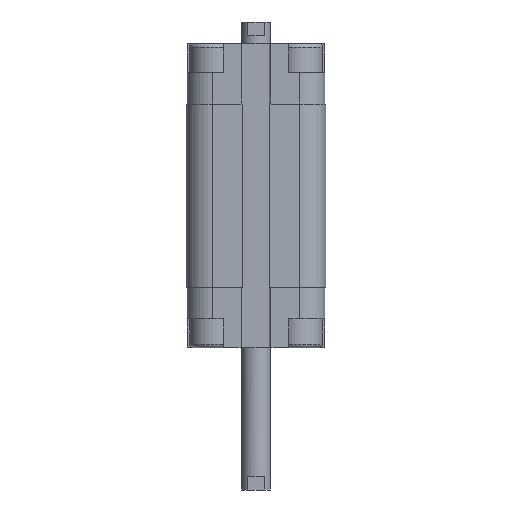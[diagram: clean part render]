
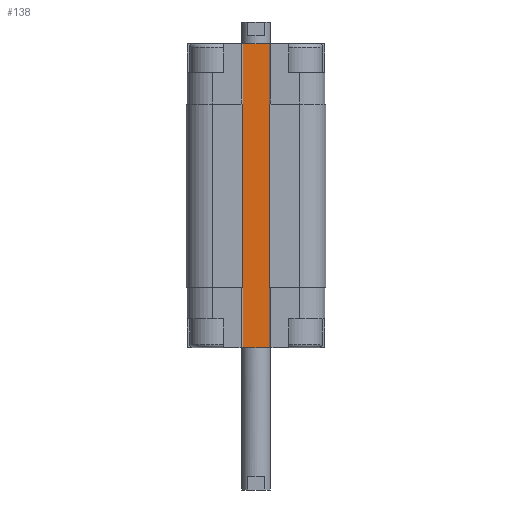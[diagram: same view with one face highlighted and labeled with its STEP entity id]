
A CAD part, front view. The second image highlights one B-rep face of the part: STEP entity #138.
In plain terms, the highlighted planar face has unit normal (0, -1, 0).
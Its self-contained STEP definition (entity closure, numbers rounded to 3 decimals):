
#115 = LINE ( 'NONE', #5690, #4270 ) ;
#138 = ADVANCED_FACE ( 'NONE', ( #8324 ), #13968, .T. ) ;
#186 = DIRECTION ( 'NONE',  ( 0., 0., 1. ) ) ;
#196 = CARTESIAN_POINT ( 'NONE',  ( -3.2, -9.5, -50.5 ) ) ;
#245 = CARTESIAN_POINT ( 'NONE',  ( -3., -9.5, -50.5 ) ) ;
#257 = VECTOR ( 'NONE', #3092, 1000. ) ;
#588 = VECTOR ( 'NONE', #1070, 1000. ) ;
#705 = VERTEX_POINT ( 'NONE', #3250 ) ;
#727 = DIRECTION ( 'NONE',  ( 0., 0., 1. ) ) ;
#982 = DIRECTION ( 'NONE',  ( 1., 0., 0. ) ) ;
#1070 = DIRECTION ( 'NONE',  ( 0., 0., 1. ) ) ;
#1153 = VECTOR ( 'NONE', #186, 1000. ) ;
#1288 = DIRECTION ( 'NONE',  ( 0., 0., 1. ) ) ;
#1387 = CARTESIAN_POINT ( 'NONE',  ( -3.2, -9.5, -12.5 ) ) ;
#1629 = ORIENTED_EDGE ( 'NONE', *, *, #16730, .F. ) ;
#1764 = LINE ( 'NONE', #13106, #17741 ) ;
#1833 = CARTESIAN_POINT ( 'NONE',  ( -3.2, -9.5, -50.5 ) ) ;
#2159 = CARTESIAN_POINT ( 'NONE',  ( -3.2, -9.5, -50.5 ) ) ;
#2169 = EDGE_CURVE ( 'NONE', #11245, #8164, #14922, .T. ) ;
#2183 = LINE ( 'NONE', #4979, #15086 ) ;
#2783 = CARTESIAN_POINT ( 'NONE',  ( 9., -9.5, -12.5 ) ) ;
#2799 = DIRECTION ( 'NONE',  ( 1., 0., 0. ) ) ;
#3049 = VECTOR ( 'NONE', #982, 1000. ) ;
#3092 = DIRECTION ( 'NONE',  ( 1., 0., 0. ) ) ;
#3185 = ORIENTED_EDGE ( 'NONE', *, *, #5976, .T. ) ;
#3247 = CARTESIAN_POINT ( 'NONE',  ( -3., -9.5, -63. ) ) ;
#3250 = CARTESIAN_POINT ( 'NONE',  ( 3., -9.5, 0. ) ) ;
#3767 = CARTESIAN_POINT ( 'NONE',  ( 3., -9.5, -12.5 ) ) ;
#3772 = CARTESIAN_POINT ( 'NONE',  ( -3., -9.5, 0. ) ) ;
#3825 = LINE ( 'NONE', #9318, #13184 ) ;
#3887 = VERTEX_POINT ( 'NONE', #17398 ) ;
#4168 = CARTESIAN_POINT ( 'NONE',  ( -3., -9.5, -12.5 ) ) ;
#4270 = VECTOR ( 'NONE', #1288, 1000. ) ;
#4363 = LINE ( 'NONE', #1833, #257 ) ;
#4979 = CARTESIAN_POINT ( 'NONE',  ( 3., -9.5, -12.5 ) ) ;
#5239 = EDGE_CURVE ( 'NONE', #12124, #17753, #1764, .T. ) ;
#5434 = EDGE_CURVE ( 'NONE', #7351, #3887, #3825, .T. ) ;
#5690 = CARTESIAN_POINT ( 'NONE',  ( 3., -9.5, -63. ) ) ;
#5976 = EDGE_CURVE ( 'NONE', #3887, #12943, #115, .T. ) ;
#5995 = AXIS2_PLACEMENT_3D ( 'NONE', #4168, #13620, #9667 ) ;
#6027 = LINE ( 'NONE', #16978, #1153 ) ;
#6084 = DIRECTION ( 'NONE',  ( 1., 0., 0. ) ) ;
#6270 = VERTEX_POINT ( 'NONE', #2159 ) ;
#7351 = VERTEX_POINT ( 'NONE', #15470 ) ;
#7674 = EDGE_LOOP ( 'NONE', ( #12659, #10987, #15206, #1629, #10939, #14387, #12295, #3185, #15860, #14602, #15537, #9703 ) ) ;
#7907 = LINE ( 'NONE', #13046, #588 ) ;
#8164 = VERTEX_POINT ( 'NONE', #16574 ) ;
#8173 = EDGE_CURVE ( 'NONE', #11245, #705, #2183, .T. ) ;
#8324 = FACE_OUTER_BOUND ( 'NONE', #7674, .T. ) ;
#8466 = LINE ( 'NONE', #196, #8498 ) ;
#8498 = VECTOR ( 'NONE', #2799, 1000. ) ;
#8553 = LINE ( 'NONE', #3247, #16050 ) ;
#8919 = VERTEX_POINT ( 'NONE', #245 ) ;
#9081 = LINE ( 'NONE', #3772, #3049 ) ;
#9318 = CARTESIAN_POINT ( 'NONE',  ( -3., -9.5, -63. ) ) ;
#9444 = VERTEX_POINT ( 'NONE', #15669 ) ;
#9667 = DIRECTION ( 'NONE',  ( -1., 0., 0. ) ) ;
#9703 = ORIENTED_EDGE ( 'NONE', *, *, #8173, .T. ) ;
#10402 = DIRECTION ( 'NONE',  ( 1., 0., 0. ) ) ;
#10939 = ORIENTED_EDGE ( 'NONE', *, *, #17634, .T. ) ;
#10987 = ORIENTED_EDGE ( 'NONE', *, *, #11401, .F. ) ;
#11245 = VERTEX_POINT ( 'NONE', #3767 ) ;
#11263 = EDGE_CURVE ( 'NONE', #9444, #8164, #7907, .T. ) ;
#11401 = EDGE_CURVE ( 'NONE', #17753, #14251, #6027, .T. ) ;
#11438 = LINE ( 'NONE', #15717, #17488 ) ;
#11724 = EDGE_CURVE ( 'NONE', #12943, #9444, #4363, .T. ) ;
#12124 = VERTEX_POINT ( 'NONE', #1387 ) ;
#12295 = ORIENTED_EDGE ( 'NONE', *, *, #5434, .T. ) ;
#12659 = ORIENTED_EDGE ( 'NONE', *, *, #14019, .F. ) ;
#12943 = VERTEX_POINT ( 'NONE', #16239 ) ;
#13001 = DIRECTION ( 'NONE',  ( 0., 0., 1. ) ) ;
#13046 = CARTESIAN_POINT ( 'NONE',  ( 3.2, -9.5, -50.5 ) ) ;
#13106 = CARTESIAN_POINT ( 'NONE',  ( -3.2, -9.5, -12.5 ) ) ;
#13184 = VECTOR ( 'NONE', #10402, 1000. ) ;
#13620 = DIRECTION ( 'NONE',  ( 0., -1., 0. ) ) ;
#13687 = CARTESIAN_POINT ( 'NONE',  ( -3., -9.5, -12.5 ) ) ;
#13854 = VECTOR ( 'NONE', #13932, 1000. ) ;
#13932 = DIRECTION ( 'NONE',  ( 1., 0., 0. ) ) ;
#13968 = PLANE ( 'NONE',  #5995 ) ;
#14019 = EDGE_CURVE ( 'NONE', #14251, #705, #9081, .T. ) ;
#14251 = VERTEX_POINT ( 'NONE', #17040 ) ;
#14387 = ORIENTED_EDGE ( 'NONE', *, *, #16733, .F. ) ;
#14602 = ORIENTED_EDGE ( 'NONE', *, *, #11263, .T. ) ;
#14922 = LINE ( 'NONE', #2783, #13854 ) ;
#15086 = VECTOR ( 'NONE', #13001, 1000. ) ;
#15206 = ORIENTED_EDGE ( 'NONE', *, *, #5239, .F. ) ;
#15470 = CARTESIAN_POINT ( 'NONE',  ( -3., -9.5, -63. ) ) ;
#15537 = ORIENTED_EDGE ( 'NONE', *, *, #2169, .F. ) ;
#15669 = CARTESIAN_POINT ( 'NONE',  ( 3.2, -9.5, -50.5 ) ) ;
#15717 = CARTESIAN_POINT ( 'NONE',  ( -3.2, -9.5, -50.5 ) ) ;
#15860 = ORIENTED_EDGE ( 'NONE', *, *, #11724, .T. ) ;
#16050 = VECTOR ( 'NONE', #727, 1000. ) ;
#16239 = CARTESIAN_POINT ( 'NONE',  ( 3., -9.5, -50.5 ) ) ;
#16574 = CARTESIAN_POINT ( 'NONE',  ( 3.2, -9.5, -12.5 ) ) ;
#16730 = EDGE_CURVE ( 'NONE', #6270, #12124, #11438, .T. ) ;
#16733 = EDGE_CURVE ( 'NONE', #7351, #8919, #8553, .T. ) ;
#16895 = DIRECTION ( 'NONE',  ( 0., 0., 1. ) ) ;
#16978 = CARTESIAN_POINT ( 'NONE',  ( -3., -9.5, -12.5 ) ) ;
#17040 = CARTESIAN_POINT ( 'NONE',  ( -3., -9.5, 0. ) ) ;
#17398 = CARTESIAN_POINT ( 'NONE',  ( 3., -9.5, -63. ) ) ;
#17488 = VECTOR ( 'NONE', #16895, 1000. ) ;
#17634 = EDGE_CURVE ( 'NONE', #6270, #8919, #8466, .T. ) ;
#17741 = VECTOR ( 'NONE', #6084, 1000. ) ;
#17753 = VERTEX_POINT ( 'NONE', #13687 ) ;
